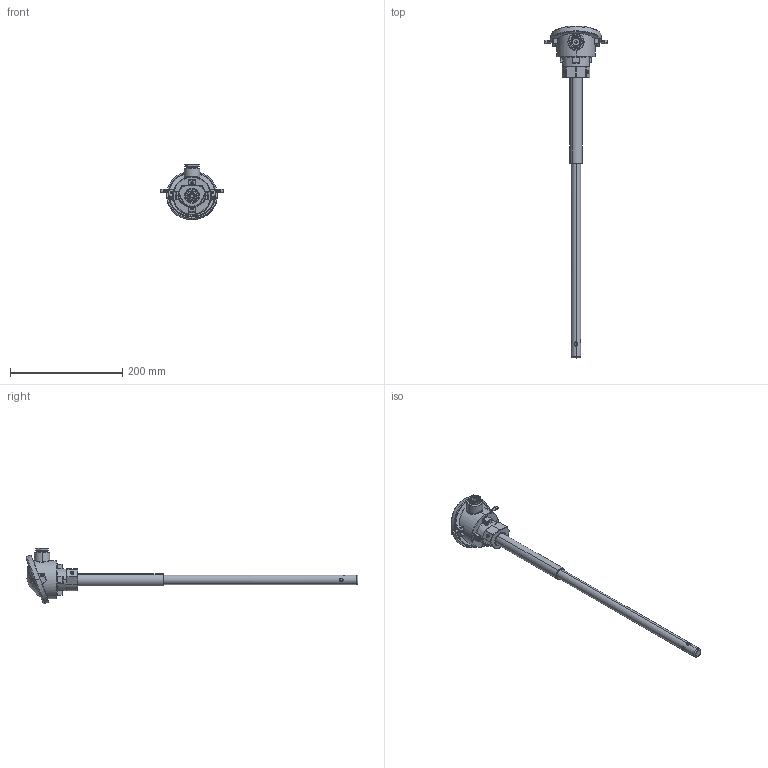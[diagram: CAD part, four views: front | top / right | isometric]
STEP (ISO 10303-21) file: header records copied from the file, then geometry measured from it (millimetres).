
FILE_DESCRIPTION (( 'STEP AP214' ), '1' );
FILE_NAME ('13-010101-SR22.STEP', '2018-08-20T15:01:55', ( '' ), ( '' ), 'SwSTEP 2.0', 'SolidWorks 2018', '' );
FILE_SCHEMA (( 'AUTOMOTIVE_DESIGN' ));
Length unit declared in the file: millimetre
Products named in the file (34): Luesterklemme_BG; 22-0101-1108-01; Schraube_M3; ZrO2_Rohr_NL500_NL 500; Einschub; 22-0101-1104-01; Luesterklemme; 22-0101-1201-03; Anschlusskopf Sonde; 22-0101-1207-20; Socket Set Screw Cup Point_DIN_DIN 916 - M6 x 8-C; 22-0101-1014-01; 13-010101-SR22; Schraube_M5_Kopf; Scheibe_M5_Kopf; Kopfeinsatz_Mutter; Kopfeinsatz_QUteschring; Kopfeinsatz_Gummi; Kalippar-4lock; Kopfeinsatz_Deckel; 22-0101-1305-01; Kopfeinsatz_Dichtring_Deckel; Isolierstab_4-loch_500; Anschlusskopf_Form_A_Kopf_Sonde; Draht0,8; 22-0101-1101-04; 22-0101-1101-20; 22-0101-1103-20_NL500; sil; 22-0101-1002-10; slotted pan head screw_din_ISO 1580 - M4 x 12 --- 12N; Feder_VD191; slotted cheese head screw_din_ISO 1207 - M4 x 30 --- 30C; 22-0101-1006-01
Assembly tree (47 placements, depth 3):
  13-010101-SR22
    22-0101-1207-20
    22-0101-1201-03
    22-0101-1104-01
    ZrO2_Rohr_NL500_NL 500
    22-0101-1108-01
    22-0101-1006-01
    Feder_VD191
    22-0101-1002-10
    22-0101-1103-20_NL500
    22-0101-1101-04
    Anschlusskopf Sonde
      Anschlusskopf_Form_A_Kopf_Sonde
      Kopfeinsatz_Dichtring_Deckel
      Kopfeinsatz_Deckel
      Kopfeinsatz_Gummi  x2
      Kopfeinsatz_QUteschring  x2
      Kopfeinsatz_Mutter  x2
      Scheibe_M5_Kopf  x2
      Schraube_M5_Kopf  x2
      22-0101-1014-01  x2
      Socket Set Screw Cup Point_DIN_DIN 916 - M6 x 8-C  x2
    Luesterklemme_BG  x2
      Luesterklemme
      Einschub
      Schraube_M3
    slotted cheese head screw_din_ISO 1207 - M4 x 30 --- 30C  x2
    slotted pan head screw_din_ISO 1580 - M4 x 12 --- 12N  x2
    sil
    22-0101-1101-20
    Draht0,8
    Kalippar-4lock
      Isolierstab_4-loch_500
      22-0101-1305-01
Bounding box: 113.5 x 592.53 x 99.48 mm (x, y, z)
Volume: 220467.3 mm3; surface area: 194516.5 mm2
Topology: 50 solids, 50 shells, 950 faces, 2193 edges, 1345 vertices
Faces by surface type: cylinder 399, plane 331, cone 80, bspline 58, torus 48, sphere 34
Entity records: 28499 total; most frequent: CARTESIAN_POINT 11691, DIRECTION 3269, ORIENTED_EDGE 2974, EDGE_CURVE 1487, AXIS2_PLACEMENT_3D 1336, VERTEX_POINT 919, EDGE_LOOP 792, CIRCLE 679
